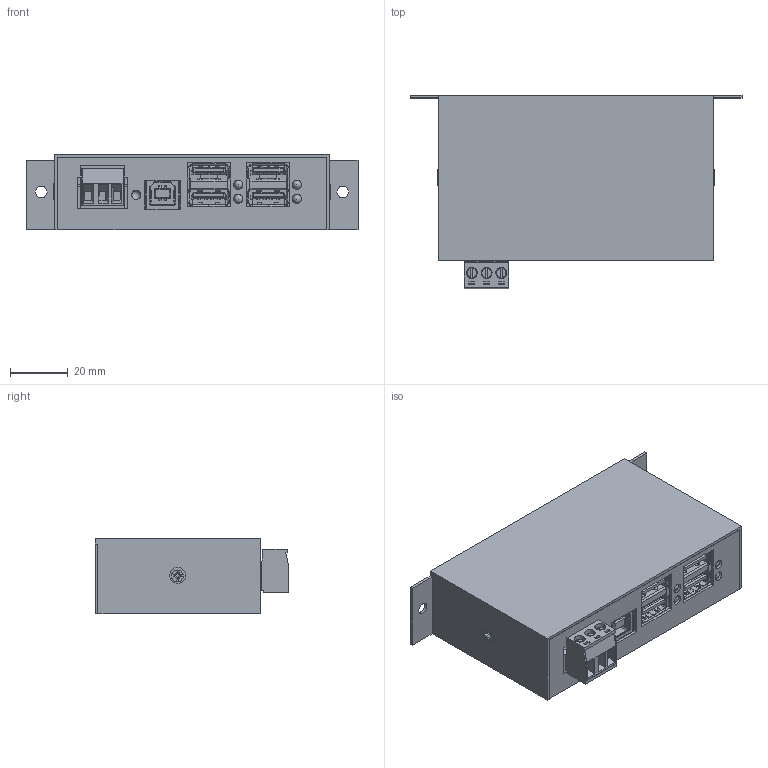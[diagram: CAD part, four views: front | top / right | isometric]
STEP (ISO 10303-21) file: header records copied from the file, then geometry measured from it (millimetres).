
FILE_DESCRIPTION(('FreeCAD Model'),'2;1');
FILE_NAME('Open CASCADE Shape Model','2025-06-26T11:49:23',(''),(''), 'Open CASCADE STEP processor 7.8','FreeCAD','Unknown');
FILE_SCHEMA(('AUTOMOTIVE_DESIGN { 1 0 10303 214 1 1 1 1 }'));
Length unit declared in the file: millimetre
Products named in the file (43): Unnamed; Case_down_1594HMS; Assem1; 6913055400xx_PIN; 6913055400xx_PIN001; 6913055400xx_PIN002; 69130554003001; LED_3mm_pcb; 1594HMS_pcb; LED_3mm_2polig#001; LED_3mm_2polig#002; schraube_iso_7045-m3x5-4_8-h#001; schraube_iso_7045-m3x5-4_8-h#002; schraube_iso_7045-m3x5-4_8-h#003; schraube_iso_7045-m3x5-4_8-h#004; 0484060001_002; SOLID001; 0484060001_001; SOLID; 670687041; SOLID002; 6913515000xx; 691351500003; 6913515000xx_CAGE; 6913515000xx_PIN; 6913515000xx_VIS; 6913515000xx_VIS001; 6913515000xx_CAGE001; 6913515000xx_PIN001; 691351500003_CAPOT; 6913515000xx_VIS002; 6913515000xx_CAGE002; 6913515000xx_PIN002; Case_up_1594HMS; dineniso7046-2m3x48_8h1#002; dineniso7046-2m3x48_8h1#001; Reset_button; Reset_cover; Reset_pni003; Reset_pin002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
Assembly tree (42 placements, depth 3):
  Unnamed
    Case_down_1594HMS
    Assem1
      6913055400xx_PIN
      6913055400xx_PIN001
      6913055400xx_PIN002
      69130554003001
    LED_3mm_pcb
    1594HMS_pcb
    LED_3mm_2polig#001
    LED_3mm_2polig#002
    schraube_iso_7045-m3x5-4_8-h#001
    schraube_iso_7045-m3x5-4_8-h#002
    schraube_iso_7045-m3x5-4_8-h#003
    schraube_iso_7045-m3x5-4_8-h#004
    0484060001_002
      SOLID001
    0484060001_001
      SOLID
    670687041
      SOLID002
    6913515000xx
      691351500003
      6913515000xx_CAGE
      6913515000xx_PIN
      6913515000xx_VIS
      6913515000xx_VIS001
      6913515000xx_CAGE001
      6913515000xx_PIN001
      691351500003_CAPOT
      6913515000xx_VIS002
      6913515000xx_CAGE002
      6913515000xx_PIN002
    Case_up_1594HMS
    dineniso7046-2m3x48_8h1#002
    dineniso7046-2m3x48_8h1#001
    Reset_button
    Reset_cover
    Reset_pni003
    Reset_pin002
    Reset_switch
    Reset_pin004
    Reset_pin001
Bounding box: 114.5 x 66.85 x 26 mm (x, y, z)
Volume: 37151.8 mm3; surface area: 67417.8 mm2
Topology: 37 solids, 37 shells, 3739 faces, 10167 edges, 6583 vertices
Faces by surface type: plane 2574, cylinder 909, cone 90, bspline 88, torus 65, sphere 13
Full cylindrical faces by diameter (mm): 1.6 x3, 2 x1, 2.2 x3, 2.5 x21, 2.75 x3, 2.9 x3, 2.95 x3, 3 x8, 3.2 x5, 3.4 x1, 3.8 x6, 4 x2, 5.25 x4, 6 x1
Entity records: 123039 total; most frequent: CARTESIAN_POINT 26711, ORIENTED_EDGE 20306, DIRECTION 18717, EDGE_CURVE 10153, LINE 7531, VECTOR 7531, VERTEX_POINT 6583, AXIS2_PLACEMENT_3D 5593
